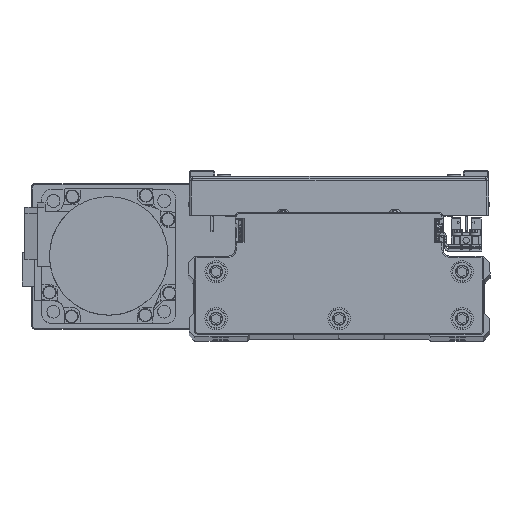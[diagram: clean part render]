
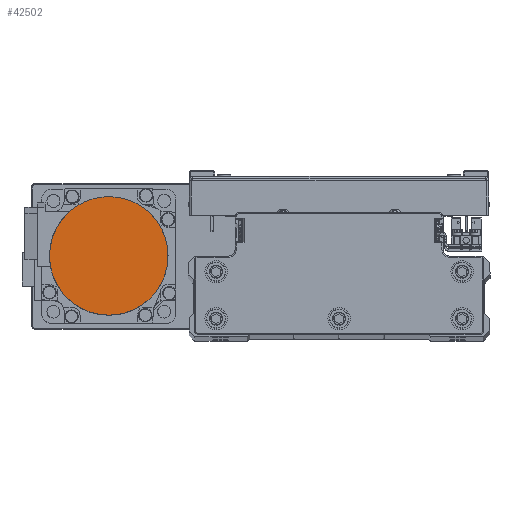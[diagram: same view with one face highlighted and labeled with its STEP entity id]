
A CAD part, top view. The second image highlights one B-rep face of the part: STEP entity #42502.
In plain terms, the highlighted planar face has unit normal (0, 0, 1) as drawn and (0, 0, -1) by its records, which use the part's own axes.
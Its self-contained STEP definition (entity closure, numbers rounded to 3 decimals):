
#1318 = CARTESIAN_POINT ( 'NONE',  ( 13.28, 22.998, -109.7 ) ) ;
#1528 = CARTESIAN_POINT ( 'NONE',  ( -17.512, 19.965, -109.7 ) ) ;
#2506 = CARTESIAN_POINT ( 'NONE',  ( -19.965, -17.512, -109.7 ) ) ;
#2731 = CARTESIAN_POINT ( 'NONE',  ( 11.744, -23.819, -109.7 ) ) ;
#4704 = CARTESIAN_POINT ( 'NONE',  ( 19.965, 17.512, -109.7 ) ) ;
#4915 = CARTESIAN_POINT ( 'NONE',  ( -11.744, 23.819, -109.7 ) ) ;
#5890 = CARTESIAN_POINT ( 'NONE',  ( -23.819, -11.744, -109.7 ) ) ;
#6121 = CARTESIAN_POINT ( 'NONE',  ( 3.469, -26.329, -109.7 ) ) ;
#6331 = CARTESIAN_POINT ( 'NONE',  ( 26.5, 0., -109.7 ) ) ;
#6344 = CARTESIAN_POINT ( 'NONE',  ( 26.329, -3.469, -109.7 ) ) ;
#8093 = CARTESIAN_POINT ( 'NONE',  ( 23.819, 11.744, -109.7 ) ) ;
#8311 = CARTESIAN_POINT ( 'NONE',  ( -3.469, 26.329, -109.7 ) ) ;
#8530 = CARTESIAN_POINT ( 'NONE',  ( -26.329, 3.469, -109.7 ) ) ;
#8847 = DIRECTION ( 'NONE',  ( 0., 0., 1. ) ) ;
#9278 = CARTESIAN_POINT ( 'NONE',  ( -26.329, -3.469, -109.7 ) ) ;
#9499 = CARTESIAN_POINT ( 'NONE',  ( -3.469, -26.329, -109.7 ) ) ;
#9731 = CARTESIAN_POINT ( 'NONE',  ( 23.819, -11.744, -109.7 ) ) ;
#11483 = CARTESIAN_POINT ( 'NONE',  ( 26.329, 3.469, -109.7 ) ) ;
#11696 = CARTESIAN_POINT ( 'NONE',  ( 3.469, 26.329, -109.7 ) ) ;
#11910 = CARTESIAN_POINT ( 'NONE',  ( -23.819, 11.744, -109.7 ) ) ;
#12237 = FACE_OUTER_BOUND ( 'NONE', #33985, .T. ) ;
#12894 = CARTESIAN_POINT ( 'NONE',  ( -11.744, -23.819, -109.7 ) ) ;
#13115 = CARTESIAN_POINT ( 'NONE',  ( 19.965, -17.512, -109.7 ) ) ;
#15079 = CARTESIAN_POINT ( 'NONE',  ( 11.744, 23.819, -109.7 ) ) ;
#15292 = CARTESIAN_POINT ( 'NONE',  ( -19.965, 17.512, -109.7 ) ) ;
#15799 = EDGE_CURVE ( 'NONE', #21054, #43428, #17348, .T. ) ;
#16290 = CARTESIAN_POINT ( 'NONE',  ( -17.512, -19.965, -109.7 ) ) ;
#16509 = CARTESIAN_POINT ( 'NONE',  ( 13.28, -22.998, -109.7 ) ) ;
#17348 = B_SPLINE_CURVE_WITH_KNOTS ( 'NONE', 3,
 ( #26426, #40202, #9278, #23037, #36815, #5890, #19656, #33425, #2506, #16290, #30040, #43810, #12894, #26651, #40416, #9499, #23257, #37039, #6121, #19883, #33655, #2731, #16509, #30257, #44029, #13115, #26880, #40648, #9731, #23488, #37261, #6344, #20104, #33869 ),
 .UNSPECIFIED., .F., .F.,
 ( 4, 2, 2, 2, 2, 2, 2, 2, 2, 2, 2, 2, 2, 2, 2, 2, 4 ),
 ( 0., 0.063, 0.125, 0.188, 0.25, 0.312, 0.375, 0.437, 0.5, 0.562, 0.625, 0.687, 0.75, 0.813, 0.875, 0.938, 1. ),
 .UNSPECIFIED. ) ;
#18469 = CARTESIAN_POINT ( 'NONE',  ( 17.512, 19.965, -109.7 ) ) ;
#18677 = CARTESIAN_POINT ( 'NONE',  ( -13.28, 22.998, -109.7 ) ) ;
#18891 = EDGE_CURVE ( 'NONE', #43428, #21054, #43458, .T. ) ;
#19656 = CARTESIAN_POINT ( 'NONE',  ( -22.998, -13.28, -109.7 ) ) ;
#19883 = CARTESIAN_POINT ( 'NONE',  ( 6.871, -25.652, -109.7 ) ) ;
#20104 = CARTESIAN_POINT ( 'NONE',  ( 26.5, -1.734, -109.7 ) ) ;
#21054 = VERTEX_POINT ( 'NONE', #40866 ) ;
#21850 = CARTESIAN_POINT ( 'NONE',  ( 22.998, 13.28, -109.7 ) ) ;
#22071 = CARTESIAN_POINT ( 'NONE',  ( -6.871, 25.652, -109.7 ) ) ;
#22283 = CARTESIAN_POINT ( 'NONE',  ( -26.5, 1.734, -109.7 ) ) ;
#22608 = DIRECTION ( 'NONE',  ( 1., 0., 0. ) ) ;
#23037 = CARTESIAN_POINT ( 'NONE',  ( -25.652, -6.871, -109.7 ) ) ;
#23257 = CARTESIAN_POINT ( 'NONE',  ( -1.734, -26.5, -109.7 ) ) ;
#23488 = CARTESIAN_POINT ( 'NONE',  ( 25.147, -8.539, -109.7 ) ) ;
#24580 = ORIENTED_EDGE ( 'NONE', *, *, #15799, .F. ) ;
#24861 = ORIENTED_EDGE ( 'NONE', *, *, #18891, .F. ) ;
#25237 = CARTESIAN_POINT ( 'NONE',  ( 25.652, 6.871, -109.7 ) ) ;
#25461 = CARTESIAN_POINT ( 'NONE',  ( 1.734, 26.5, -109.7 ) ) ;
#25675 = CARTESIAN_POINT ( 'NONE',  ( -25.147, 8.539, -109.7 ) ) ;
#25992 = PLANE ( 'NONE',  #40288 ) ;
#26426 = CARTESIAN_POINT ( 'NONE',  ( -26.5, 0., -109.7 ) ) ;
#26651 = CARTESIAN_POINT ( 'NONE',  ( -8.539, -25.147, -109.7 ) ) ;
#26880 = CARTESIAN_POINT ( 'NONE',  ( 21.07, -16.165, -109.7 ) ) ;
#28630 = CARTESIAN_POINT ( 'NONE',  ( 26.5, 0., -109.7 ) ) ;
#28837 = CARTESIAN_POINT ( 'NONE',  ( 8.539, 25.147, -109.7 ) ) ;
#29058 = CARTESIAN_POINT ( 'NONE',  ( -21.07, 16.165, -109.7 ) ) ;
#30040 = CARTESIAN_POINT ( 'NONE',  ( -16.165, -21.07, -109.7 ) ) ;
#30257 = CARTESIAN_POINT ( 'NONE',  ( 16.165, -21.07, -109.7 ) ) ;
#32235 = CARTESIAN_POINT ( 'NONE',  ( 16.165, 21.07, -109.7 ) ) ;
#32437 = CARTESIAN_POINT ( 'NONE',  ( -16.165, 21.07, -109.7 ) ) ;
#33425 = CARTESIAN_POINT ( 'NONE',  ( -21.07, -16.165, -109.7 ) ) ;
#33655 = CARTESIAN_POINT ( 'NONE',  ( 8.539, -25.147, -109.7 ) ) ;
#33869 = CARTESIAN_POINT ( 'NONE',  ( 26.5, 0., -109.7 ) ) ;
#33985 = EDGE_LOOP ( 'NONE', ( #24861, #24580 ) ) ;
#35628 = CARTESIAN_POINT ( 'NONE',  ( 21.07, 16.165, -109.7 ) ) ;
#35846 = CARTESIAN_POINT ( 'NONE',  ( -8.539, 25.147, -109.7 ) ) ;
#36053 = CARTESIAN_POINT ( 'NONE',  ( -26.5, 0., -109.7 ) ) ;
#36815 = CARTESIAN_POINT ( 'NONE',  ( -25.147, -8.539, -109.7 ) ) ;
#37039 = CARTESIAN_POINT ( 'NONE',  ( 1.734, -26.5, -109.7 ) ) ;
#37261 = CARTESIAN_POINT ( 'NONE',  ( 25.652, -6.871, -109.7 ) ) ;
#39015 = CARTESIAN_POINT ( 'NONE',  ( 25.147, 8.539, -109.7 ) ) ;
#39234 = CARTESIAN_POINT ( 'NONE',  ( -1.734, 26.5, -109.7 ) ) ;
#39447 = CARTESIAN_POINT ( 'NONE',  ( -25.652, 6.871, -109.7 ) ) ;
#39766 = CARTESIAN_POINT ( 'NONE',  ( 0., 0., -109.7 ) ) ;
#40202 = CARTESIAN_POINT ( 'NONE',  ( -26.5, -1.734, -109.7 ) ) ;
#40288 = AXIS2_PLACEMENT_3D ( 'NONE', #39766, #8847, #22608 ) ;
#40416 = CARTESIAN_POINT ( 'NONE',  ( -6.871, -25.652, -109.7 ) ) ;
#40648 = CARTESIAN_POINT ( 'NONE',  ( 22.998, -13.28, -109.7 ) ) ;
#40866 = CARTESIAN_POINT ( 'NONE',  ( -26.5, 0., -109.7 ) ) ;
#42394 = CARTESIAN_POINT ( 'NONE',  ( 26.5, 1.734, -109.7 ) ) ;
#42502 = ADVANCED_FACE ( 'NONE', ( #12237 ), #25992, .F. ) ;
#42605 = CARTESIAN_POINT ( 'NONE',  ( 6.871, 25.652, -109.7 ) ) ;
#42831 = CARTESIAN_POINT ( 'NONE',  ( -22.998, 13.28, -109.7 ) ) ;
#43428 = VERTEX_POINT ( 'NONE', #6331 ) ;
#43458 = B_SPLINE_CURVE_WITH_KNOTS ( 'NONE', 3,
 ( #28630, #42394, #11483, #25237, #39015, #8093, #21850, #35628, #4704, #18469, #32235, #1318, #15079, #28837, #42605, #11696, #25461, #39234, #8311, #22071, #35846, #4915, #18677, #32437, #1528, #15292, #29058, #42831, #11910, #25675, #39447, #8530, #22283, #36053 ),
 .UNSPECIFIED., .F., .F.,
 ( 4, 2, 2, 2, 2, 2, 2, 2, 2, 2, 2, 2, 2, 2, 2, 2, 4 ),
 ( 0., 0.062, 0.125, 0.187, 0.25, 0.312, 0.375, 0.437, 0.5, 0.562, 0.625, 0.687, 0.75, 0.813, 0.875, 0.938, 1. ),
 .UNSPECIFIED. ) ;
#43810 = CARTESIAN_POINT ( 'NONE',  ( -13.28, -22.998, -109.7 ) ) ;
#44029 = CARTESIAN_POINT ( 'NONE',  ( 17.512, -19.965, -109.7 ) ) ;
